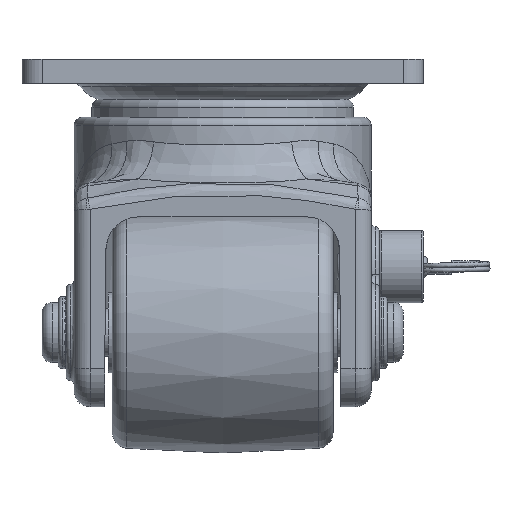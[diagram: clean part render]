
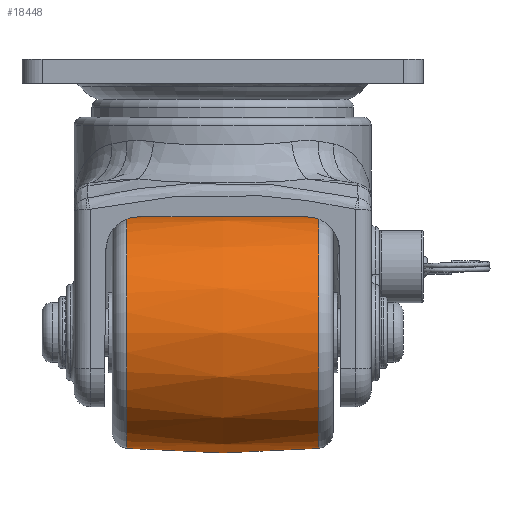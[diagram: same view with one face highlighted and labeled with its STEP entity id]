
A CAD part, left-side view. The second image highlights one B-rep face of the part: STEP entity #18448.
In plain terms, the highlighted free-form (B-spline) face has degree [2, 2] with [3, 9] control points.
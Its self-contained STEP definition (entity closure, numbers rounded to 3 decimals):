
#18384=CARTESIAN_POINT('',(100.326,143.221,-17.05));
#18385=VERTEX_POINT('',#18384);
#18386=CARTESIAN_POINT('',(71.47,143.221,-17.05));
#18387=DIRECTION('',(0.0,-1.0,0.0));
#18388=DIRECTION('',(1.0,0.0,0.0));
#18389=AXIS2_PLACEMENT_3D('',#18386,#18387,#18388);
#18390=CIRCLE('',#18389,28.857);
#18391=EDGE_CURVE('',#18385,#18385,#18390,.T.);
#18399=CARTESIAN_POINT('',(71.47,143.221,11.807));
#18400=CARTESIAN_POINT('',(71.47,119.339,14.099));
#18401=CARTESIAN_POINT('',(71.47,95.456,11.807));
#18402=CARTESIAN_POINT('',(100.326,143.221,11.807));
#18403=CARTESIAN_POINT('',(102.618,119.339,14.099));
#18404=CARTESIAN_POINT('',(100.326,95.456,11.807));
#18405=CARTESIAN_POINT('',(100.326,143.221,-17.05));
#18406=CARTESIAN_POINT('',(102.618,119.339,-17.05));
#18407=CARTESIAN_POINT('',(100.326,95.456,-17.05));
#18408=CARTESIAN_POINT('',(100.326,143.221,-45.907));
#18409=CARTESIAN_POINT('',(102.618,119.339,-48.199));
#18410=CARTESIAN_POINT('',(100.326,95.456,-45.907));
#18411=CARTESIAN_POINT('',(71.47,143.221,-45.907));
#18412=CARTESIAN_POINT('',(71.47,119.339,-48.199));
#18413=CARTESIAN_POINT('',(71.47,95.456,-45.907));
#18414=CARTESIAN_POINT('',(42.613,143.221,-45.907));
#18415=CARTESIAN_POINT('',(40.321,119.339,-48.199));
#18416=CARTESIAN_POINT('',(42.613,95.456,-45.907));
#18417=CARTESIAN_POINT('',(42.613,143.221,-17.05));
#18418=CARTESIAN_POINT('',(40.321,119.339,-17.05));
#18419=CARTESIAN_POINT('',(42.613,95.456,-17.05));
#18420=CARTESIAN_POINT('',(42.613,143.221,11.807));
#18421=CARTESIAN_POINT('',(40.321,119.339,14.099));
#18422=CARTESIAN_POINT('',(42.613,95.456,11.807));
#18423=CARTESIAN_POINT('',(71.47,143.221,11.807));
#18424=CARTESIAN_POINT('',(71.47,119.339,14.099));
#18425=CARTESIAN_POINT('',(71.47,95.456,11.807));
#18433=(BOUNDED_SURFACE()B_SPLINE_SURFACE(2,2,((#18399,#18402,#18405,#18408,#18411,#18414,#18417,#18420,#18423),(#18400,#18403,#18406,#18409,#18412,#18415,#18418,#18421,#18424),(#18401,#18404,#18407,#18410,#18413,#18416,#18419,#18422,#18425)),.UNSPECIFIED.,.F.,.T.,.U.)B_SPLINE_SURFACE_WITH_KNOTS((3,3),(3,2,2,2,3),(-0.096,0.096),(0.0,1.571,3.142,4.712,6.283),.UNSPECIFIED.)GEOMETRIC_REPRESENTATION_ITEM()RATIONAL_B_SPLINE_SURFACE(((1.0,0.707,1.0,0.707,1.0,0.707,1.0,0.707,1.0),(0.995,0.704,0.995,0.704,0.995,0.704,0.995,0.704,0.995),(1.0,0.707,1.0,0.707,1.0,0.707,1.0,0.707,1.0)))REPRESENTATION_ITEM('')SURFACE());
#18434=CARTESIAN_POINT('',(100.326,95.456,-17.05));
#18435=VERTEX_POINT('',#18434);
#18436=CARTESIAN_POINT('',(71.47,95.456,-17.05));
#18437=DIRECTION('',(0.0,-1.0,0.0));
#18438=DIRECTION('',(1.0,0.0,0.0));
#18439=AXIS2_PLACEMENT_3D('',#18436,#18437,#18438);
#18440=CIRCLE('',#18439,28.857);
#18441=EDGE_CURVE('',#18435,#18435,#18440,.T.);
#18442=ORIENTED_EDGE('',*,*,#18441,.F.);
#18443=EDGE_LOOP('',(#18442));
#18444=FACE_OUTER_BOUND('',#18443,.T.);
#18445=ORIENTED_EDGE('',*,*,#18391,.T.);
#18446=EDGE_LOOP('',(#18445));
#18447=FACE_BOUND('',#18446,.T.);
#18448=ADVANCED_FACE('',(#18444,#18447),#18433,.T.);
